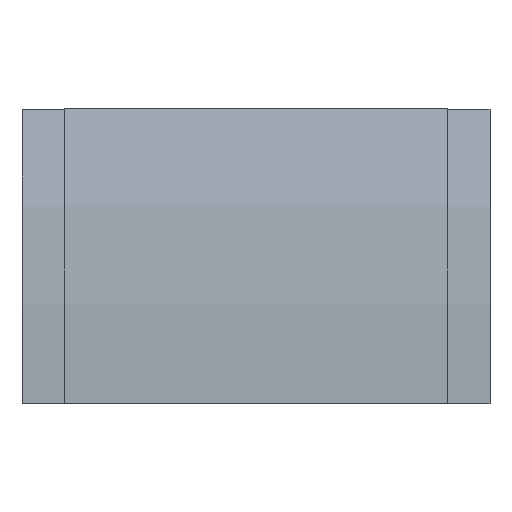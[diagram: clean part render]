
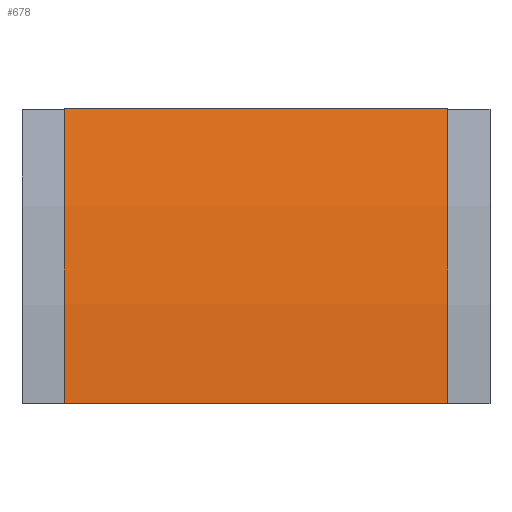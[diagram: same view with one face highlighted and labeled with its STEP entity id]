
A CAD part, front view. The second image highlights one B-rep face of the part: STEP entity #678.
In plain terms, the highlighted cylindrical face has radius 568 mm (diameter 1136 mm), a partial arc.
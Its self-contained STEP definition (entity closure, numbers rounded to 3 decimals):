
#1 = VERTEX_POINT ( 'NONE', #391 ) ;
#7 = EDGE_CURVE ( 'NONE', #1, #409, #929, .T. ) ;
#8 = EDGE_CURVE ( 'NONE', #691, #693, #931, .T. ) ;
#9 = EDGE_CURVE ( 'NONE', #693, #409, #935, .T. ) ;
#12 = EDGE_CURVE ( 'NONE', #691, #1, #940, .T. ) ;
#45 = AXIS2_PLACEMENT_3D ( 'NONE', #168, #194, #189 ) ;
#46 = AXIS2_PLACEMENT_3D ( 'NONE', #180, #183, #182 ) ;
#89 = AXIS2_PLACEMENT_3D ( 'NONE', #578, #573, #575 ) ;
#168 = CARTESIAN_POINT ( 'NONE',  ( 95.25, 500., 0. ) ) ;
#180 = CARTESIAN_POINT ( 'NONE',  ( -95.25, 500., 0. ) ) ;
#182 = DIRECTION ( 'NONE',  ( 0., 0., -1. ) ) ;
#183 = DIRECTION ( 'NONE',  ( 1., 0., 0. ) ) ;
#184 = DIRECTION ( 'NONE',  ( 1., 0., 0. ) ) ;
#189 = DIRECTION ( 'NONE',  ( 0., 0., -1. ) ) ;
#194 = DIRECTION ( 'NONE',  ( 1., 0., 0. ) ) ;
#328 = FACE_OUTER_BOUND ( 'NONE', #752, .T. ) ;
#333 = CYLINDRICAL_SURFACE ( 'NONE', #89, 568. ) ;
#390 = CARTESIAN_POINT ( 'NONE',  ( -95.25, -48.646, 147.009 ) ) ;
#391 = CARTESIAN_POINT ( 'NONE',  ( -95.25, -68., 0. ) ) ;
#392 = DIRECTION ( 'NONE',  ( 1., 0., 0. ) ) ;
#399 = CARTESIAN_POINT ( 'NONE',  ( -95.25, -68., 0. ) ) ;
#409 = VERTEX_POINT ( 'NONE', #553 ) ;
#553 = CARTESIAN_POINT ( 'NONE',  ( 95.25, -68., 0. ) ) ;
#573 = DIRECTION ( 'NONE',  ( 1., 0., 0. ) ) ;
#575 = DIRECTION ( 'NONE',  ( 0., 0., -1. ) ) ;
#578 = CARTESIAN_POINT ( 'NONE',  ( 0., 500., 0. ) ) ;
#616 = CARTESIAN_POINT ( 'NONE',  ( -95.25, -48.646, 147.009 ) ) ;
#618 = CARTESIAN_POINT ( 'NONE',  ( 95.25, -48.646, 147.009 ) ) ;
#678 = ADVANCED_FACE ( 'NONE', ( #328 ), #333, .T. ) ;
#691 = VERTEX_POINT ( 'NONE', #616 ) ;
#693 = VERTEX_POINT ( 'NONE', #618 ) ;
#752 = EDGE_LOOP ( 'NONE', ( #789, #790, #791, #792 ) ) ;
#789 = ORIENTED_EDGE ( 'NONE', *, *, #9, .F. ) ;
#790 = ORIENTED_EDGE ( 'NONE', *, *, #8, .F. ) ;
#791 = ORIENTED_EDGE ( 'NONE', *, *, #12, .T. ) ;
#792 = ORIENTED_EDGE ( 'NONE', *, *, #7, .T. ) ;
#929 = LINE ( 'NONE', #399, #934 ) ;
#931 = LINE ( 'NONE', #390, #936 ) ;
#934 = VECTOR ( 'NONE', #392, 1000. ) ;
#935 = CIRCLE ( 'NONE', #45, 568. ) ;
#936 = VECTOR ( 'NONE', #184, 1000. ) ;
#940 = CIRCLE ( 'NONE', #46, 568. ) ;
